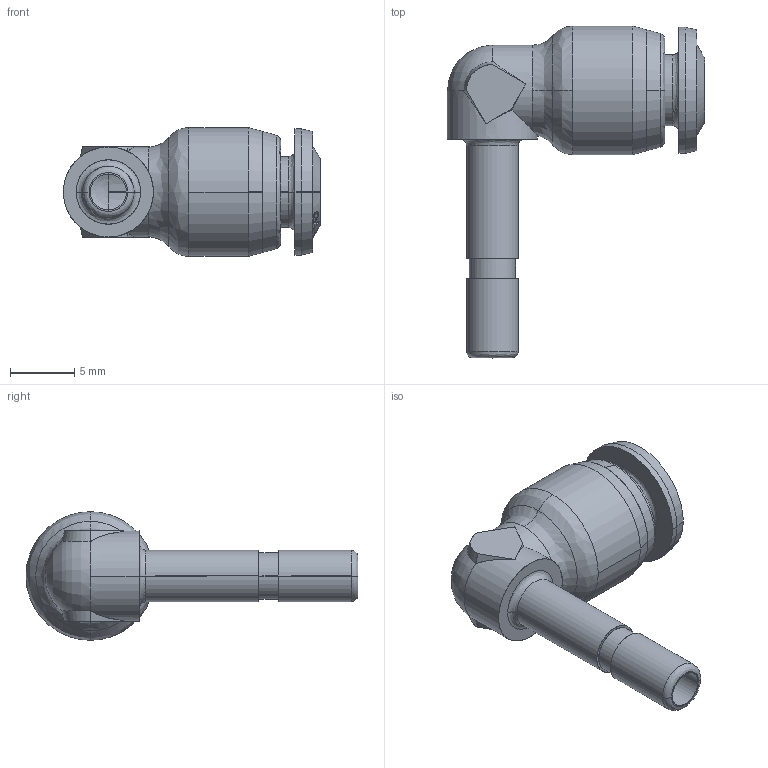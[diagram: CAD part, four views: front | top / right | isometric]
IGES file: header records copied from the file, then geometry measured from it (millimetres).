
Start section: SolidWorks IGES file using analytic representation for surfaces
Global section: file name: K:\Disegni Esecutivi\SERIE 55000\ASSIEMI_55000\55140\ASSIEMI_.IGES_55140\5514000001.igs; native system: SolidWorks 2016; preprocessor: SolidWorks 2016; author: Cad01; date: 160722.111108; units: millimetre
Bounding box: 20 x 25.8 x 10 mm (x, y, z)
Surface area: 1178.1 mm2 (no closed solid volume)
Topology: 0 solids, 0 shells, 179 faces, 1843 edges, 1842 vertices
Faces by surface type: bspline 131, revolution 48
